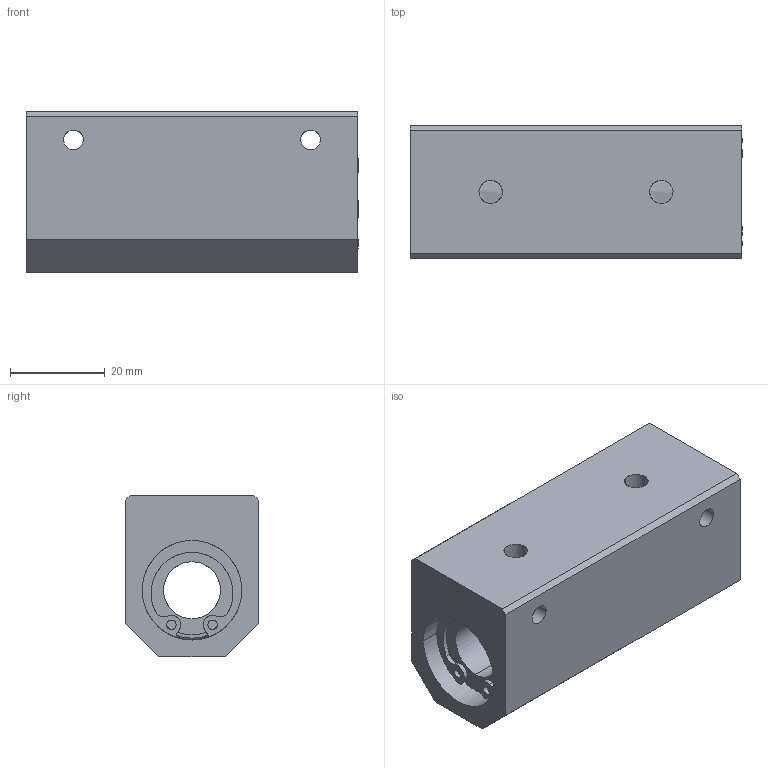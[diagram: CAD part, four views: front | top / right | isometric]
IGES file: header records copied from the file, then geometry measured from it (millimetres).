
Global section: file name: No Iges File Name specified; native system: AutoDesk Inventor R11.0; preprocessor: AutoDesk Inventor Iges Exporter R11.0; author: No Author specified; organization: No Organization specified; date: 20111024.132811; units: millimetre
Bounding box: 70 x 28 x 34 mm (x, y, z)
Surface area: 15690.7 mm2 (no closed solid volume)
Topology: 0 solids, 0 shells, 114 faces, 904 edges, 904 vertices
Faces by surface type: bspline 114
